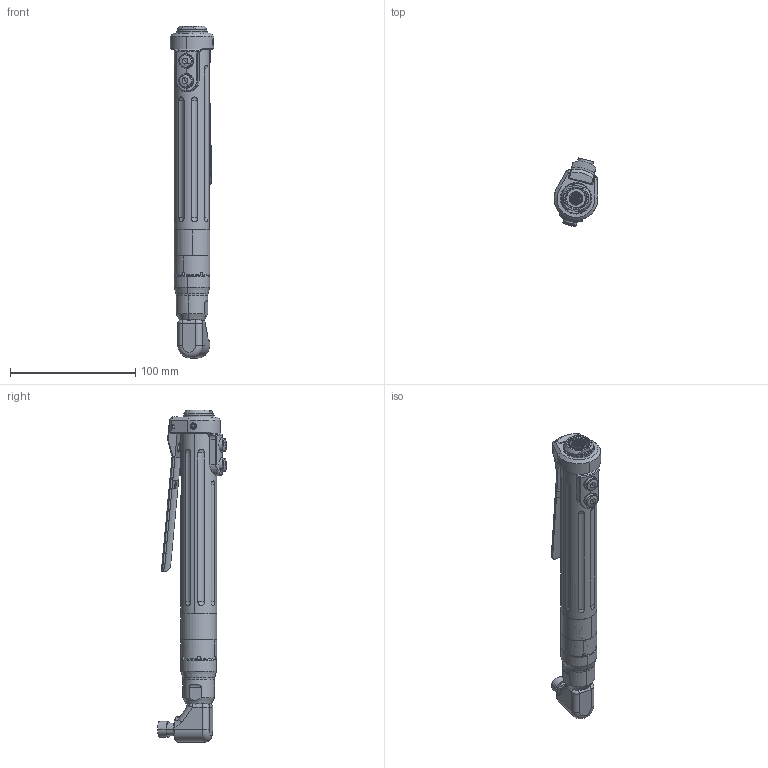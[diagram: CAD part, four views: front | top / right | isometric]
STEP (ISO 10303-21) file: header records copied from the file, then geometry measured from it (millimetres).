
FILE_DESCRIPTION (( 'STEP AP203' ), '1' );
FILE_NAME ('ASG-SD2500-10RQ.STEP', '2012-10-12T12:06:10', ( '' ), ( '' ), 'SwSTEP 2.0', 'SolidWorks 2012', '' );
FILE_SCHEMA (( 'CONFIG_CONTROL_DESIGN' ));
Length unit declared in the file: inch
Products named in the file (1): ASG-SD2500-10RQ
Bounding box: 34.94 x 55.09 x 265.38 mm (x, y, z)
Volume: 75181.8 mm3; surface area: 78797.1 mm2
Topology: 64 solids, 64 shells, 1901 faces, 4867 edges, 3124 vertices
Faces by surface type: plane 841, cylinder 753, cone 123, torus 105, bspline 71, sphere 8
Entity records: 76909 total; most frequent: CARTESIAN_POINT 30399, DIRECTION 9685, ORIENTED_EDGE 9678, EDGE_CURVE 4839, AXIS2_PLACEMENT_3D 3530, VERTEX_POINT 3124, LINE 2625, VECTOR 2625
